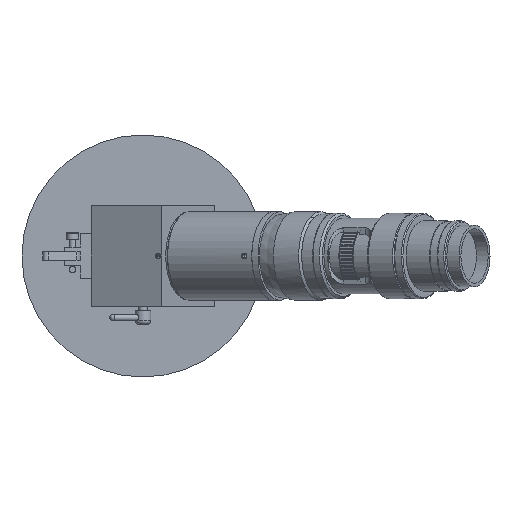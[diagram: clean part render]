
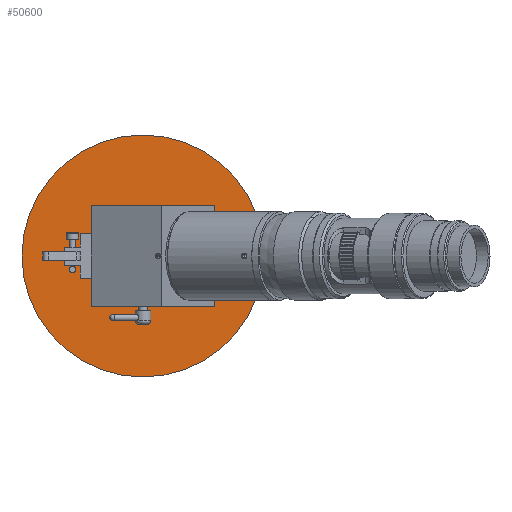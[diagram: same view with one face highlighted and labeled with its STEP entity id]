
A CAD part, left-side view. The second image highlights one B-rep face of the part: STEP entity #50600.
In plain terms, the highlighted planar face has unit normal (-1, 0, 0).
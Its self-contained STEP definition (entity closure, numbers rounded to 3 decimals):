
#1150=FACE_BOUND('',#7223,.T.);
#1151=FACE_BOUND('',#7224,.T.);
#2745=CIRCLE('',#54536,54.);
#2746=CIRCLE('',#54537,1.5);
#2747=CIRCLE('',#54538,22.5);
#4130=FACE_OUTER_BOUND('',#7222,.T.);
#7222=EDGE_LOOP('',(#33907));
#7223=EDGE_LOOP('',(#33908));
#7224=EDGE_LOOP('',(#33909));
#21899=VERTEX_POINT('',#76407);
#21900=VERTEX_POINT('',#76409);
#21901=VERTEX_POINT('',#76411);
#26649=EDGE_CURVE('',#21899,#21899,#2745,.T.);
#26650=EDGE_CURVE('',#21900,#21900,#2746,.T.);
#26651=EDGE_CURVE('',#21901,#21901,#2747,.T.);
#33907=ORIENTED_EDGE('',*,*,#26649,.F.);
#33908=ORIENTED_EDGE('',*,*,#26650,.T.);
#33909=ORIENTED_EDGE('',*,*,#26651,.T.);
#45062=PLANE('',#54535);
#50600=ADVANCED_FACE('',(#4130,#1150,#1151),#45062,.T.);
#54535=AXIS2_PLACEMENT_3D('',#76406,#61645,#61646);
#54536=AXIS2_PLACEMENT_3D('',#76408,#61647,#61648);
#54537=AXIS2_PLACEMENT_3D('',#76410,#61649,#61650);
#54538=AXIS2_PLACEMENT_3D('',#76412,#61651,#61652);
#61645=DIRECTION('center_axis',(-1.,0.,0.));
#61646=DIRECTION('ref_axis',(0.,0.,1.));
#61647=DIRECTION('center_axis',(1.,0.,0.));
#61648=DIRECTION('ref_axis',(0.,1.,0.));
#61649=DIRECTION('center_axis',(1.,0.,0.));
#61650=DIRECTION('ref_axis',(0.,0.,
-1.));
#61651=DIRECTION('center_axis',(1.,0.,0.));
#61652=DIRECTION('ref_axis',(0.,1.,0.));
#76406=CARTESIAN_POINT('Origin',(-8.554,21.345,0.5));
#76407=CARTESIAN_POINT('',(-8.554,48.345,0.5));
#76408=CARTESIAN_POINT('Origin',(-8.554,-5.655,0.5));
#76409=CARTESIAN_POINT('',(-8.554,25.845,-4.));
#76410=CARTESIAN_POINT('Origin',(-8.554,25.845,-5.5));
#76411=CARTESIAN_POINT('',(-8.554,16.845,0.5));
#76412=CARTESIAN_POINT('Origin',(-8.554,-5.655,0.5));
